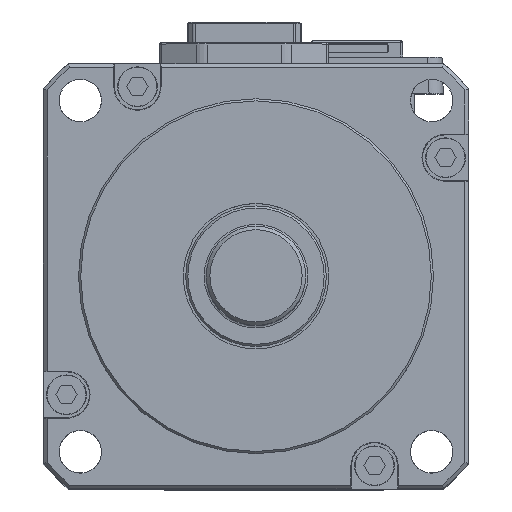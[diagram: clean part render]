
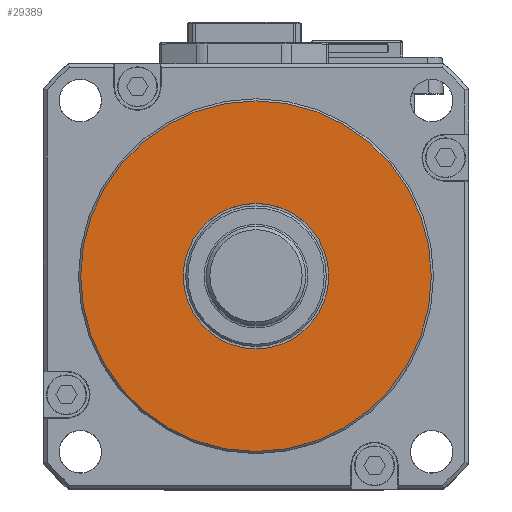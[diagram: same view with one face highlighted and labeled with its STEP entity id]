
A CAD part, top view. The second image highlights one B-rep face of the part: STEP entity #29389.
In plain terms, the highlighted planar face has unit normal (0, 0, 1).
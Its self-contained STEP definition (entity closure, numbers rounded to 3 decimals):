
#6009 = DIRECTION ( 'NONE',  ( 0., 0., 1. ) ) ;
#6775 = AXIS2_PLACEMENT_3D ( 'NONE', #39761, #45495, #40081 ) ;
#6972 = CARTESIAN_POINT ( 'NONE',  ( 0., 0., 10. ) ) ;
#8059 = PLANE ( 'NONE',  #61798 ) ;
#9615 = CARTESIAN_POINT ( 'NONE',  ( 0., 0., 10. ) ) ;
#11837 = EDGE_LOOP ( 'NONE', ( #35915 ) ) ;
#14009 = VERTEX_POINT ( 'NONE', #19360 ) ;
#15147 = ORIENTED_EDGE ( 'NONE', *, *, #20914, .F. ) ;
#19093 = FACE_OUTER_BOUND ( 'NONE', #11837, .T. ) ;
#19360 = CARTESIAN_POINT ( 'NONE',  ( 10.25, 0., 10. ) ) ;
#20671 = AXIS2_PLACEMENT_3D ( 'NONE', #6972, #6009, #34797 ) ;
#20914 = EDGE_CURVE ( 'NONE', #14009, #14009, #33084, .T. ) ;
#24496 = DIRECTION ( 'NONE',  ( 0., 0., 1. ) ) ;
#26738 = CIRCLE ( 'NONE', #20671, 24.7 ) ;
#27803 = CARTESIAN_POINT ( 'NONE',  ( 24.7, 0., 10. ) ) ;
#29389 = ADVANCED_FACE ( 'NONE', ( #19093, #47678 ), #8059, .T. ) ;
#33084 = CIRCLE ( 'NONE', #6775, 10.25 ) ;
#34797 = DIRECTION ( 'NONE',  ( 1., 0., 0. ) ) ;
#35915 = ORIENTED_EDGE ( 'NONE', *, *, #46252, .T. ) ;
#39761 = CARTESIAN_POINT ( 'NONE',  ( 0., 0., 10. ) ) ;
#40081 = DIRECTION ( 'NONE',  ( 1., 0., 0. ) ) ;
#45495 = DIRECTION ( 'NONE',  ( 0., 0., 1. ) ) ;
#46252 = EDGE_CURVE ( 'NONE', #61431, #61431, #26738, .T. ) ;
#47678 = FACE_BOUND ( 'NONE', #56872, .T. ) ;
#54306 = DIRECTION ( 'NONE',  ( 1., 0., 0. ) ) ;
#56872 = EDGE_LOOP ( 'NONE', ( #15147 ) ) ;
#61431 = VERTEX_POINT ( 'NONE', #27803 ) ;
#61798 = AXIS2_PLACEMENT_3D ( 'NONE', #9615, #24496, #54306 ) ;
